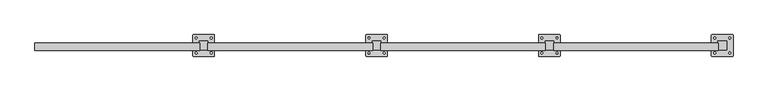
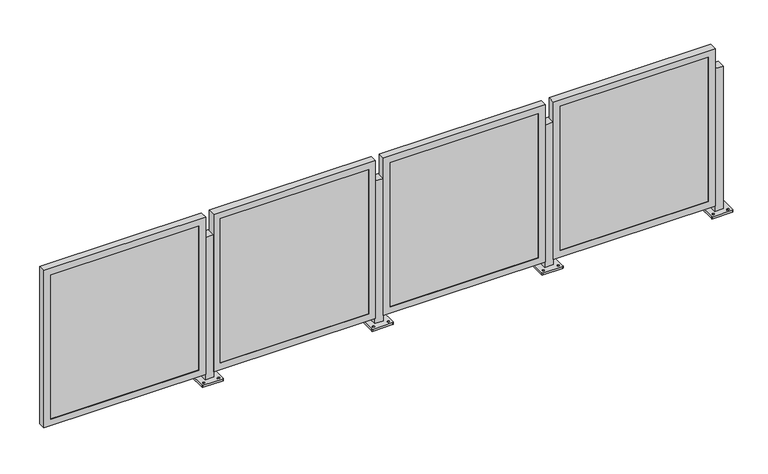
"""IFC4 building model written with IfcOpenShell, lengths in millimetres: railing geometry."""

from ifc_helpers import new_model, si_unit, frame, origin, place, context, project, spatial, polyline, circle_curve, outline, extrude, faceted_brep, source, transform, mapped, element, save
from ifc_brep_helpers import plane_surface, cylinder_surface, revolved_surface, advanced_brep


def railing_c7c183e7(model_context):
    return source(origin(), model_context, "Body", "SolidModel", [
        advanced_brep(
        [(-3164.7876539, 7781.5792637, 914.4), (-3164.7876539, 7730.7792637, 914.4), (-3113.9876539, 7730.7792637, 914.4), (-3113.9876539, 7781.5792637, 914.4), (-3202.887654, 7695.8543047, 0.0), (-3202.887654, 7816.5042227, 0.0), (-3199.7126259, 7819.6792508, 0.0), (-3079.0626819, 7819.6792508, 0.0), (-3075.8876537, 7816.5042227, 0.0), (-3075.8876537, 7695.8543047, 0.0), (-3079.0626819, 7692.6792766, 0.0), (-3199.7126259, 7692.6792766, 0.0), (-3183.8376414, 7706.173009, 0.0), (-3183.8376414, 7717.2855215, 0.0), (-3183.8376523, 7795.0730134, 0.0), (-3183.8376523, 7806.185495, 0.0), (-3094.9376404, 7706.1730106, 0.0), (-3094.9376404, 7717.2855212, 0.0), (-3094.9376514, 7795.073015, 0.0), (-3094.9376514, 7806.1854948, 0.0), (-3164.7876539, 7781.5792637, 12.7), (-3164.7876539, 7730.7792637, 12.7), (-3113.9876539, 7730.7792637, 12.7), (-3113.9876539, 7781.5792637, 12.7), (-3202.887654, 7695.8543047, 12.7), (-3199.7126259, 7692.6792766, 12.7), (-3079.0626819, 7692.6792766, 12.7), (-3075.8876537, 7695.8543047, 12.7), (-3075.8876537, 7816.5042227, 12.7), (-3079.0626819, 7819.6792508, 12.7), (-3199.7126259, 7819.6792508, 12.7), (-3202.887654, 7816.5042227, 12.7), (-3183.8376414, 7706.173009, 12.7), (-3183.8376414, 7717.2855215, 12.7), (-3183.8376523, 7795.0730134, 12.7), (-3183.8376523, 7806.185495, 12.7), (-3094.9376404, 7706.1730106, 12.7), (-3094.9376404, 7717.2855212, 12.7), (-3094.9376514, 7795.073015, 12.7), (-3094.9376514, 7806.1854948, 12.7)],
        [
            (0, 1),
            (1, 2),
            (2, 3),
            (3, 0),
            (4, 5),
            (5, 6, circle_curve(frame((-3199.7126259, 7816.5042227, 0.0), z_axis=(0.0, 0.0, -1.0), x_axis=(0.0, 1.0, 0.0)), 3.1750282)),
            (6, 7),
            (7, 8, circle_curve(frame((-3079.0626819, 7816.5042227, 0.0), z_axis=(0.0, 0.0, -1.0), x_axis=(0.0, 1.0, 0.0)), 3.1750282)),
            (8, 9),
            (9, 10, circle_curve(frame((-3079.0626819, 7695.8543047, 0.0), z_axis=(0.0, 0.0, -1.0), x_axis=(0.0, 1.0, 0.0)), 3.1750282)),
            (10, 11),
            (11, 4, circle_curve(frame((-3199.7126259, 7695.8543047, 0.0), z_axis=(0.0, 0.0, -1.0), x_axis=(0.0, 1.0, 0.0)), 3.1750282)),
            (12, 13, circle_curve(frame((-3183.8376414, 7711.7292653, 0.0), z_axis=(0.0, 0.0, 1.0), x_axis=(0.0, 1.0, 0.0)), 5.5562562)),
            (13, 12, circle_curve(frame((-3183.8376414, 7711.7292653, 0.0), z_axis=(0.0, 0.0, 1.0), x_axis=(0.0, 1.0, 0.0)), 5.5562562)),
            (14, 15, circle_curve(frame((-3183.8376523, 7800.6292542, 0.0), z_axis=(0.0, 0.0, 1.0), x_axis=(0.0, 1.0, 0.0)), 5.5562408)),
            (15, 14, circle_curve(frame((-3183.8376523, 7800.6292542, 0.0), z_axis=(0.0, 0.0, 1.0), x_axis=(0.0, 1.0, 0.0)), 5.5562408)),
            (16, 17, circle_curve(frame((-3094.9376404, 7711.7292659, 0.0), z_axis=(0.0, 0.0, 1.0), x_axis=(0.0, 1.0, 0.0)), 5.5562553)),
            (17, 16, circle_curve(frame((-3094.9376404, 7711.7292659, 0.0), z_axis=(0.0, 0.0, 1.0), x_axis=(0.0, 1.0, 0.0)), 5.5562553)),
            (18, 19, circle_curve(frame((-3094.9376514, 7800.6292549, 0.0), z_axis=(0.0, 0.0, 1.0), x_axis=(0.0, 1.0, 0.0)), 5.5562399)),
            (19, 18, circle_curve(frame((-3094.9376514, 7800.6292549, 0.0), z_axis=(0.0, 0.0, 1.0), x_axis=(0.0, 1.0, 0.0)), 5.5562399)),
            (0, 20),
            (20, 21),
            (21, 1),
            (21, 22),
            (22, 2),
            (22, 23),
            (23, 3),
            (23, 20),
            (24, 25, circle_curve(frame((-3199.7126259, 7695.8543047, 12.7), z_axis=(0.0, 0.0, 1.0), x_axis=(0.0, 1.0, 0.0)), 3.1750282)),
            (25, 26),
            (26, 27, circle_curve(frame((-3079.0626819, 7695.8543047, 12.7), z_axis=(0.0, 0.0, 1.0), x_axis=(0.0, 1.0, 0.0)), 3.1750282)),
            (27, 28),
            (28, 29, circle_curve(frame((-3079.0626819, 7816.5042227, 12.7), z_axis=(0.0, 0.0, 1.0), x_axis=(0.0, 1.0, 0.0)), 3.1750282)),
            (29, 30),
            (30, 31, circle_curve(frame((-3199.7126259, 7816.5042227, 12.7), z_axis=(0.0, 0.0, 1.0), x_axis=(0.0, 1.0, 0.0)), 3.1750282)),
            (31, 24),
            (32, 33, circle_curve(frame((-3183.8376414, 7711.7292653, 12.7), z_axis=(0.0, 0.0, -1.0), x_axis=(0.0, 1.0, 0.0)), 5.5562562)),
            (33, 32, circle_curve(frame((-3183.8376414, 7711.7292653, 12.7), z_axis=(0.0, 0.0, -1.0), x_axis=(0.0, 1.0, 0.0)), 5.5562562)),
            (34, 35, circle_curve(frame((-3183.8376523, 7800.6292542, 12.7), z_axis=(0.0, 0.0, -1.0), x_axis=(0.0, 1.0, 0.0)), 5.5562408)),
            (35, 34, circle_curve(frame((-3183.8376523, 7800.6292542, 12.7), z_axis=(0.0, 0.0, -1.0), x_axis=(0.0, 1.0, 0.0)), 5.5562408)),
            (36, 37, circle_curve(frame((-3094.9376404, 7711.7292659, 12.7), z_axis=(0.0, 0.0, -1.0), x_axis=(0.0, 1.0, 0.0)), 5.5562553)),
            (37, 36, circle_curve(frame((-3094.9376404, 7711.7292659, 12.7), z_axis=(0.0, 0.0, -1.0), x_axis=(0.0, 1.0, 0.0)), 5.5562553)),
            (38, 39, circle_curve(frame((-3094.9376514, 7800.6292549, 12.7), z_axis=(0.0, 0.0, -1.0), x_axis=(0.0, 1.0, 0.0)), 5.5562399)),
            (39, 38, circle_curve(frame((-3094.9376514, 7800.6292549, 12.7), z_axis=(0.0, 0.0, -1.0), x_axis=(0.0, 1.0, 0.0)), 5.5562399)),
            (24, 4),
            (11, 25),
            (10, 26),
            (9, 27),
            (8, 28),
            (7, 29),
            (6, 30),
            (5, 31),
            (32, 12),
            (13, 33),
            (34, 14),
            (15, 35),
            (36, 16),
            (17, 37),
            (38, 18),
            (19, 39),
        ],
        [
            plane_surface(frame((-3164.7876539, 7730.7792637, 914.4), z_axis=(0.0, 0.0, 1.0), x_axis=(0.0, -1.0, 0.0))),
            plane_surface(frame((-3164.7876539, 7730.7792637, 0.0), z_axis=(0.0, 0.0, -1.0), x_axis=(0.0, 1.0, 0.0))),
            plane_surface(frame((-3164.7876539, 7781.5792637, 914.4), z_axis=(-1.0, 0.0, 0.0), x_axis=(0.0, 0.0, -1.0))),
            plane_surface(frame((-3164.7876539, 7730.7792637, 914.4), z_axis=(0.0, -1.0, 0.0), x_axis=(0.0, 0.0, -1.0))),
            plane_surface(frame((-3113.9876539, 7730.7792637, 914.4), z_axis=(1.0, 0.0, 0.0), x_axis=(0.0, 0.0, -1.0))),
            plane_surface(frame((-3113.9876539, 7781.5792637, 914.4), z_axis=(0.0, 1.0, 0.0), x_axis=(0.0, 0.0, -1.0))),
            plane_surface(frame((-3199.7126259, 7699.0293329, 12.7), z_axis=(0.0, 0.0, 1.0), x_axis=(-1.0, 0.0, 0.0))),
            cylinder_surface(frame((-3199.7126259, 7695.8543047, 0.0), z_axis=(0.0, 0.0, 1.0), x_axis=(0.0, 1.0, 0.0)), 3.1750282),
            plane_surface(frame((-3199.7126259, 7692.6792766, 12.7), z_axis=(1.1945386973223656e-12, -1.0, 0.0), x_axis=(0.0, 0.0, -1.0))),
            cylinder_surface(frame((-3079.0626819, 7695.8543047, 0.0), z_axis=(0.0, 0.0, 1.0), x_axis=(0.0, 1.0, 0.0)), 3.1750282),
            plane_surface(frame((-3075.8876537, 7695.8543047, 12.7), z_axis=(1.0, 0.0, 0.0), x_axis=(0.0, 0.0, -1.0))),
            cylinder_surface(frame((-3079.0626819, 7816.5042227, 0.0), z_axis=(0.0, 0.0, 1.0), x_axis=(0.0, 1.0, 0.0)), 3.1750282),
            plane_surface(frame((-3079.0626819, 7819.6792508, 12.7), z_axis=(-1.1946088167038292e-12, 1.0, 0.0), x_axis=(0.0, 0.0, -1.0))),
            cylinder_surface(frame((-3199.7126259, 7816.5042227, 0.0), z_axis=(0.0, 0.0, 1.0), x_axis=(0.0, 1.0, 0.0)), 3.1750282),
            plane_surface(frame((-3202.887654, 7816.5042227, 12.7), z_axis=(-1.0, 0.0, 0.0), x_axis=(0.0, 0.0, -1.0))),
            revolved_surface(polyline([(-3183.8376414, 7717.2855215, 0.0), (-3183.8376414, 7717.2855215, 12.7)]), (-3183.8376414, 7711.7292653, 0.0), (0.0, 0.0, -1.0)),
            revolved_surface(polyline([(-3183.8376523, 7806.185495, 0.0), (-3183.8376523, 7806.185495, 12.7)]), (-3183.8376523, 7800.6292542, 0.0), (0.0, 0.0, -1.0)),
            revolved_surface(polyline([(-3094.9376404, 7717.2855212, 0.0), (-3094.9376404, 7717.2855212, 12.7)]), (-3094.9376404, 7711.7292659, 0.0), (0.0, 0.0, -1.0)),
            revolved_surface(polyline([(-3094.9376514, 7806.1854948, 0.0), (-3094.9376514, 7806.1854948, 12.7)]), (-3094.9376514, 7800.6292549, 0.0), (0.0, 0.0, -1.0)),
        ],
        [
            (0, [[1, 2, 3, 4]]),
            (1, [[5, 6, 7, 8, 9, 10, 11, 12], [13, 14], [15, 16], [17, 18], [19, 20]]),
            (2, [[-1, 21, 22, 23]]),
            (3, [[-2, -23, 24, 25]]),
            (4, [[-3, -25, 26, 27]]),
            (5, [[-4, -27, 28, -21]]),
            (6, [[29, 30, 31, 32, 33, 34, 35, 36], [-22, -28, -26, -24], [37, 38], [39, 40], [41, 42], [43, 44]]),
            (7, [[-29, 45, -12, 46]]),
            (8, [[-30, -46, -11, 47]]),
            (9, [[-31, -47, -10, 48]]),
            (10, [[-32, -48, -9, 49]]),
            (11, [[-33, -49, -8, 50]]),
            (12, [[-34, -50, -7, 51]]),
            (13, [[-35, -51, -6, 52]]),
            (14, [[-36, -52, -5, -45]]),
            (15, [[-37, 53, -14, 54]]),
            (15, [[-38, -54, -13, -53]]),
            (16, [[-39, 55, -16, 56]]),
            (16, [[-40, -56, -15, -55]]),
            (17, [[-41, 57, -18, 58]]),
            (17, [[-42, -58, -17, -57]]),
            (18, [[-43, 59, -20, 60]]),
            (18, [[-44, -60, -19, -59]]),
        ],
    ),
        faceted_brep([(-4131.1921073, 7728.0360637, 47.625), (-3162.8171073, 7728.0360637, 47.625), (-3162.8171073, 7728.0360637, 1044.575), (-4131.1921073, 7728.0360637, 1044.575), (-4089.9171073, 7728.0360637, 1003.3), (-3204.0921073, 7728.0360637, 1003.3), (-3204.0921073, 7728.0360637, 88.9), (-4089.9171073, 7728.0360637, 88.9), (-4089.9171073, 7730.7792637, 1003.3), (-4089.9171073, 7730.7792637, 88.9), (-4131.1921073, 7771.9093602, 1044.575), (-4131.1921073, 7771.9093602, 47.625), (-4128.0171073, 7771.9093602, 1041.4), (-4128.0171073, 7730.7792637, 1041.4), (-4128.0171073, 7730.7792637, 50.8), (-4128.0171073, 7771.9093602, 50.8), (-3204.0921073, 7730.7792637, 88.9), (-3162.8171073, 7771.9093602, 47.625), (-3165.9921073, 7730.7792637, 50.8), (-3165.9921073, 7771.9093602, 50.8), (-3204.0921073, 7730.7792637, 1003.3), (-3162.8171073, 7771.9093602, 1044.575), (-3165.9921073, 7730.7792637, 1041.4), (-3165.9921073, 7771.9093602, 1041.4)], [[[0, 1, 2, 3], [4, 5, 6, 7]], [[8, 4, 7, 9]], [[3, 10, 11, 0]], [[12, 13, 14, 15]], [[9, 7, 6, 16]], [[0, 11, 17, 1]], [[15, 14, 18, 19]], [[16, 6, 5, 20]], [[1, 17, 21, 2]], [[19, 18, 22, 23]], [[20, 5, 4, 8]], [[10, 21, 17, 11], [15, 19, 23, 12]], [[2, 21, 10, 3]], [[13, 22, 18, 14], [9, 16, 20, 8]], [[23, 22, 13, 12]]]),
        extrude(outline(polyline([(-4128.0171073, 7740.3042637), (-3165.9921073, 7740.3042637), (-3165.9921073, 7730.7792637), (-4128.0171073, 7730.7792637), (-4128.0171073, 7740.3042637)])), frame((0.0, 0.0, 50.8), z_axis=(0.0, 0.0, 1.0), x_axis=(1.0, 0.0, 0.0)), (0.0, 0.0, 1.0), 990.6),
        advanced_brep(
        [(-4180.7876539, 7781.5792637, 914.4), (-4180.7876539, 7730.7792637, 914.4), (-4129.9876539, 7730.7792637, 914.4), (-4129.9876539, 7781.5792637, 914.4), (-4218.887654, 7695.8543047, 0.0), (-4218.887654, 7816.5042227, 0.0), (-4215.7126259, 7819.6792508, 0.0), (-4095.0626819, 7819.6792508, 0.0), (-4091.8876537, 7816.5042227, 0.0), (-4091.8876537, 7695.8543047, 0.0), (-4095.0626819, 7692.6792766, 0.0), (-4215.7126259, 7692.6792766, 0.0), (-4199.8376414, 7706.173009, 0.0), (-4199.8376414, 7717.2855215, 0.0), (-4199.8376523, 7795.0730134, 0.0), (-4199.8376523, 7806.185495, 0.0), (-4110.9376404, 7706.1730106, 0.0), (-4110.9376404, 7717.2855212, 0.0), (-4110.9376514, 7795.073015, 0.0), (-4110.9376514, 7806.1854948, 0.0), (-4180.7876539, 7781.5792637, 12.7), (-4180.7876539, 7730.7792637, 12.7), (-4129.9876539, 7730.7792637, 12.7), (-4129.9876539, 7781.5792637, 12.7), (-4218.887654, 7695.8543047, 12.7), (-4215.7126259, 7692.6792766, 12.7), (-4095.0626819, 7692.6792766, 12.7), (-4091.8876537, 7695.8543047, 12.7), (-4091.8876537, 7816.5042227, 12.7), (-4095.0626819, 7819.6792508, 12.7), (-4215.7126259, 7819.6792508, 12.7), (-4218.887654, 7816.5042227, 12.7), (-4199.8376414, 7706.173009, 12.7), (-4199.8376414, 7717.2855215, 12.7), (-4199.8376523, 7795.0730134, 12.7), (-4199.8376523, 7806.185495, 12.7), (-4110.9376404, 7706.1730106, 12.7), (-4110.9376404, 7717.2855212, 12.7), (-4110.9376514, 7795.073015, 12.7), (-4110.9376514, 7806.1854948, 12.7)],
        [
            (0, 1),
            (1, 2),
            (2, 3),
            (3, 0),
            (4, 5),
            (5, 6, circle_curve(frame((-4215.7126259, 7816.5042227, 0.0), z_axis=(0.0, 0.0, -1.0), x_axis=(0.0, 1.0, 0.0)), 3.1750282)),
            (6, 7),
            (7, 8, circle_curve(frame((-4095.0626819, 7816.5042227, 0.0), z_axis=(0.0, 0.0, -1.0), x_axis=(0.0, 1.0, 0.0)), 3.1750282)),
            (8, 9),
            (9, 10, circle_curve(frame((-4095.0626819, 7695.8543047, 0.0), z_axis=(0.0, 0.0, -1.0), x_axis=(0.0, 1.0, 0.0)), 3.1750282)),
            (10, 11),
            (11, 4, circle_curve(frame((-4215.7126259, 7695.8543047, 0.0), z_axis=(0.0, 0.0, -1.0), x_axis=(0.0, 1.0, 0.0)), 3.1750282)),
            (12, 13, circle_curve(frame((-4199.8376414, 7711.7292653, 0.0), z_axis=(0.0, 0.0, 1.0), x_axis=(0.0, 1.0, 0.0)), 5.5562562)),
            (13, 12, circle_curve(frame((-4199.8376414, 7711.7292653, 0.0), z_axis=(0.0, 0.0, 1.0), x_axis=(0.0, 1.0, 0.0)), 5.5562562)),
            (14, 15, circle_curve(frame((-4199.8376523, 7800.6292542, 0.0), z_axis=(0.0, 0.0, 1.0), x_axis=(0.0, 1.0, 0.0)), 5.5562408)),
            (15, 14, circle_curve(frame((-4199.8376523, 7800.6292542, 0.0), z_axis=(0.0, 0.0, 1.0), x_axis=(0.0, 1.0, 0.0)), 5.5562408)),
            (16, 17, circle_curve(frame((-4110.9376404, 7711.7292659, 0.0), z_axis=(0.0, 0.0, 1.0), x_axis=(0.0, 1.0, 0.0)), 5.5562553)),
            (17, 16, circle_curve(frame((-4110.9376404, 7711.7292659, 0.0), z_axis=(0.0, 0.0, 1.0), x_axis=(0.0, 1.0, 0.0)), 5.5562553)),
            (18, 19, circle_curve(frame((-4110.9376514, 7800.6292549, 0.0), z_axis=(0.0, 0.0, 1.0), x_axis=(0.0, 1.0, 0.0)), 5.5562399)),
            (19, 18, circle_curve(frame((-4110.9376514, 7800.6292549, 0.0), z_axis=(0.0, 0.0, 1.0), x_axis=(0.0, 1.0, 0.0)), 5.5562399)),
            (0, 20),
            (20, 21),
            (21, 1),
            (21, 22),
            (22, 2),
            (22, 23),
            (23, 3),
            (23, 20),
            (24, 25, circle_curve(frame((-4215.7126259, 7695.8543047, 12.7), z_axis=(0.0, 0.0, 1.0), x_axis=(0.0, 1.0, 0.0)), 3.1750282)),
            (25, 26),
            (26, 27, circle_curve(frame((-4095.0626819, 7695.8543047, 12.7), z_axis=(0.0, 0.0, 1.0), x_axis=(0.0, 1.0, 0.0)), 3.1750282)),
            (27, 28),
            (28, 29, circle_curve(frame((-4095.0626819, 7816.5042227, 12.7), z_axis=(0.0, 0.0, 1.0), x_axis=(0.0, 1.0, 0.0)), 3.1750282)),
            (29, 30),
            (30, 31, circle_curve(frame((-4215.7126259, 7816.5042227, 12.7), z_axis=(0.0, 0.0, 1.0), x_axis=(0.0, 1.0, 0.0)), 3.1750282)),
            (31, 24),
            (32, 33, circle_curve(frame((-4199.8376414, 7711.7292653, 12.7), z_axis=(0.0, 0.0, -1.0), x_axis=(0.0, 1.0, 0.0)), 5.5562562)),
            (33, 32, circle_curve(frame((-4199.8376414, 7711.7292653, 12.7), z_axis=(0.0, 0.0, -1.0), x_axis=(0.0, 1.0, 0.0)), 5.5562562)),
            (34, 35, circle_curve(frame((-4199.8376523, 7800.6292542, 12.7), z_axis=(0.0, 0.0, -1.0), x_axis=(0.0, 1.0, 0.0)), 5.5562408)),
            (35, 34, circle_curve(frame((-4199.8376523, 7800.6292542, 12.7), z_axis=(0.0, 0.0, -1.0), x_axis=(0.0, 1.0, 0.0)), 5.5562408)),
            (36, 37, circle_curve(frame((-4110.9376404, 7711.7292659, 12.7), z_axis=(0.0, 0.0, -1.0), x_axis=(0.0, 1.0, 0.0)), 5.5562553)),
            (37, 36, circle_curve(frame((-4110.9376404, 7711.7292659, 12.7), z_axis=(0.0, 0.0, -1.0), x_axis=(0.0, 1.0, 0.0)), 5.5562553)),
            (38, 39, circle_curve(frame((-4110.9376514, 7800.6292549, 12.7), z_axis=(0.0, 0.0, -1.0), x_axis=(0.0, 1.0, 0.0)), 5.5562399)),
            (39, 38, circle_curve(frame((-4110.9376514, 7800.6292549, 12.7), z_axis=(0.0, 0.0, -1.0), x_axis=(0.0, 1.0, 0.0)), 5.5562399)),
            (24, 4),
            (11, 25),
            (10, 26),
            (9, 27),
            (8, 28),
            (7, 29),
            (6, 30),
            (5, 31),
            (32, 12),
            (13, 33),
            (34, 14),
            (15, 35),
            (36, 16),
            (17, 37),
            (38, 18),
            (19, 39),
        ],
        [
            plane_surface(frame((-4180.7876539, 7730.7792637, 914.4), z_axis=(0.0, 0.0, 1.0), x_axis=(0.0, -1.0, 0.0))),
            plane_surface(frame((-4180.7876539, 7730.7792637, 0.0), z_axis=(0.0, 0.0, -1.0), x_axis=(0.0, 1.0, 0.0))),
            plane_surface(frame((-4180.7876539, 7781.5792637, 914.4), z_axis=(-1.0, 0.0, 0.0), x_axis=(0.0, 0.0, -1.0))),
            plane_surface(frame((-4180.7876539, 7730.7792637, 914.4), z_axis=(0.0, -1.0, 0.0), x_axis=(0.0, 0.0, -1.0))),
            plane_surface(frame((-4129.9876539, 7730.7792637, 914.4), z_axis=(1.0, 0.0, 0.0), x_axis=(0.0, 0.0, -1.0))),
            plane_surface(frame((-4129.9876539, 7781.5792637, 914.4), z_axis=(0.0, 1.0, 0.0), x_axis=(0.0, 0.0, -1.0))),
            plane_surface(frame((-4215.7126259, 7699.0293329, 12.7), z_axis=(0.0, 0.0, 1.0), x_axis=(-1.0, 0.0, 0.0))),
            cylinder_surface(frame((-4215.7126259, 7695.8543047, 0.0), z_axis=(0.0, 0.0, 1.0), x_axis=(0.0, 1.0, 0.0)), 3.1750282),
            plane_surface(frame((-4215.7126259, 7692.6792766, 12.7), z_axis=(1.1945386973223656e-12, -1.0, 0.0), x_axis=(0.0, 0.0, -1.0))),
            cylinder_surface(frame((-4095.0626819, 7695.8543047, 0.0), z_axis=(0.0, 0.0, 1.0), x_axis=(0.0, 1.0, 0.0)), 3.1750282),
            plane_surface(frame((-4091.8876537, 7695.8543047, 12.7), z_axis=(1.0, 0.0, 0.0), x_axis=(0.0, 0.0, -1.0))),
            cylinder_surface(frame((-4095.0626819, 7816.5042227, 0.0), z_axis=(0.0, 0.0, 1.0), x_axis=(0.0, 1.0, 0.0)), 3.1750282),
            plane_surface(frame((-4095.0626819, 7819.6792508, 12.7), z_axis=(-1.1946088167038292e-12, 1.0, 0.0), x_axis=(0.0, 0.0, -1.0))),
            cylinder_surface(frame((-4215.7126259, 7816.5042227, 0.0), z_axis=(0.0, 0.0, 1.0), x_axis=(0.0, 1.0, 0.0)), 3.1750282),
            plane_surface(frame((-4218.887654, 7816.5042227, 12.7), z_axis=(-1.0, 0.0, 0.0), x_axis=(0.0, 0.0, -1.0))),
            revolved_surface(polyline([(-4199.8376414, 7717.2855215, 0.0), (-4199.8376414, 7717.2855215, 12.7)]), (-4199.8376414, 7711.7292653, 0.0), (0.0, 0.0, -1.0)),
            revolved_surface(polyline([(-4199.8376523, 7806.185495, 0.0), (-4199.8376523, 7806.185495, 12.7)]), (-4199.8376523, 7800.6292542, 0.0), (0.0, 0.0, -1.0)),
            revolved_surface(polyline([(-4110.9376404, 7717.2855212, 0.0), (-4110.9376404, 7717.2855212, 12.7)]), (-4110.9376404, 7711.7292659, 0.0), (0.0, 0.0, -1.0)),
            revolved_surface(polyline([(-4110.9376514, 7806.1854948, 0.0), (-4110.9376514, 7806.1854948, 12.7)]), (-4110.9376514, 7800.6292549, 0.0), (0.0, 0.0, -1.0)),
        ],
        [
            (0, [[1, 2, 3, 4]]),
            (1, [[5, 6, 7, 8, 9, 10, 11, 12], [13, 14], [15, 16], [17, 18], [19, 20]]),
            (2, [[-1, 21, 22, 23]]),
            (3, [[-2, -23, 24, 25]]),
            (4, [[-3, -25, 26, 27]]),
            (5, [[-4, -27, 28, -21]]),
            (6, [[29, 30, 31, 32, 33, 34, 35, 36], [-22, -28, -26, -24], [37, 38], [39, 40], [41, 42], [43, 44]]),
            (7, [[-29, 45, -12, 46]]),
            (8, [[-30, -46, -11, 47]]),
            (9, [[-31, -47, -10, 48]]),
            (10, [[-32, -48, -9, 49]]),
            (11, [[-33, -49, -8, 50]]),
            (12, [[-34, -50, -7, 51]]),
            (13, [[-35, -51, -6, 52]]),
            (14, [[-36, -52, -5, -45]]),
            (15, [[-37, 53, -14, 54]]),
            (15, [[-38, -54, -13, -53]]),
            (16, [[-39, 55, -16, 56]]),
            (16, [[-40, -56, -15, -55]]),
            (17, [[-41, 57, -18, 58]]),
            (17, [[-42, -58, -17, -57]]),
            (18, [[-43, 59, -20, 60]]),
            (18, [[-44, -60, -19, -59]]),
        ],
    ),
        faceted_brep([(-5147.1921073, 7728.0360637, 47.625), (-4178.8171073, 7728.0360637, 47.625), (-4178.8171073, 7728.0360637, 1044.575), (-5147.1921073, 7728.0360637, 1044.575), (-5105.9171073, 7728.0360637, 1003.3), (-4220.0921073, 7728.0360637, 1003.3), (-4220.0921073, 7728.0360637, 88.9), (-5105.9171073, 7728.0360637, 88.9), (-5105.9171073, 7730.7792637, 1003.3), (-5105.9171073, 7730.7792637, 88.9), (-5147.1921073, 7771.9093602, 1044.575), (-5147.1921073, 7771.9093602, 47.625), (-5144.0171073, 7771.9093602, 1041.4), (-5144.0171073, 7730.7792637, 1041.4), (-5144.0171073, 7730.7792637, 50.8), (-5144.0171073, 7771.9093602, 50.8), (-4220.0921073, 7730.7792637, 88.9), (-4178.8171073, 7771.9093602, 47.625), (-4181.9921073, 7730.7792637, 50.8), (-4181.9921073, 7771.9093602, 50.8), (-4220.0921073, 7730.7792637, 1003.3), (-4178.8171073, 7771.9093602, 1044.575), (-4181.9921073, 7730.7792637, 1041.4), (-4181.9921073, 7771.9093602, 1041.4)], [[[0, 1, 2, 3], [4, 5, 6, 7]], [[8, 4, 7, 9]], [[3, 10, 11, 0]], [[12, 13, 14, 15]], [[9, 7, 6, 16]], [[0, 11, 17, 1]], [[15, 14, 18, 19]], [[16, 6, 5, 20]], [[1, 17, 21, 2]], [[19, 18, 22, 23]], [[20, 5, 4, 8]], [[10, 21, 17, 11], [15, 19, 23, 12]], [[2, 21, 10, 3]], [[13, 22, 18, 14], [9, 16, 20, 8]], [[23, 22, 13, 12]]]),
        extrude(outline(polyline([(-5144.0171073, 7740.3042637), (-4181.9921073, 7740.3042637), (-4181.9921073, 7730.7792637), (-5144.0171073, 7730.7792637), (-5144.0171073, 7740.3042637)])), frame((0.0, 0.0, 50.8), z_axis=(0.0, 0.0, 1.0), x_axis=(1.0, 0.0, 0.0)), (0.0, 0.0, 1.0), 990.6),
        advanced_brep(
        [(-5196.7876539, 7781.5792637, 914.4), (-5196.7876539, 7730.7792637, 914.4), (-5145.9876539, 7730.7792637, 914.4), (-5145.9876539, 7781.5792637, 914.4), (-5234.887654, 7695.8543047, 0.0), (-5234.887654, 7816.5042227, 0.0), (-5231.7126259, 7819.6792508, 0.0), (-5111.0626819, 7819.6792508, 0.0), (-5107.8876537, 7816.5042227, 0.0), (-5107.8876537, 7695.8543047, 0.0), (-5111.0626819, 7692.6792766, 0.0), (-5231.7126259, 7692.6792766, 0.0), (-5215.8376414, 7706.173009, 0.0), (-5215.8376414, 7717.2855215, 0.0), (-5215.8376523, 7795.0730134, 0.0), (-5215.8376523, 7806.185495, 0.0), (-5126.9376404, 7706.1730106, 0.0), (-5126.9376404, 7717.2855212, 0.0), (-5126.9376514, 7795.073015, 0.0), (-5126.9376514, 7806.1854948, 0.0), (-5196.7876539, 7781.5792637, 12.7), (-5196.7876539, 7730.7792637, 12.7), (-5145.9876539, 7730.7792637, 12.7), (-5145.9876539, 7781.5792637, 12.7), (-5234.887654, 7695.8543047, 12.7), (-5231.7126259, 7692.6792766, 12.7), (-5111.0626819, 7692.6792766, 12.7), (-5107.8876537, 7695.8543047, 12.7), (-5107.8876537, 7816.5042227, 12.7), (-5111.0626819, 7819.6792508, 12.7), (-5231.7126259, 7819.6792508, 12.7), (-5234.887654, 7816.5042227, 12.7), (-5215.8376414, 7706.173009, 12.7), (-5215.8376414, 7717.2855215, 12.7), (-5215.8376523, 7795.0730134, 12.7), (-5215.8376523, 7806.185495, 12.7), (-5126.9376404, 7706.1730106, 12.7), (-5126.9376404, 7717.2855212, 12.7), (-5126.9376514, 7795.073015, 12.7), (-5126.9376514, 7806.1854948, 12.7)],
        [
            (0, 1),
            (1, 2),
            (2, 3),
            (3, 0),
            (4, 5),
            (5, 6, circle_curve(frame((-5231.7126259, 7816.5042227, 0.0), z_axis=(0.0, 0.0, -1.0), x_axis=(0.0, 1.0, 0.0)), 3.1750282)),
            (6, 7),
            (7, 8, circle_curve(frame((-5111.0626819, 7816.5042227, 0.0), z_axis=(0.0, 0.0, -1.0), x_axis=(0.0, 1.0, 0.0)), 3.1750282)),
            (8, 9),
            (9, 10, circle_curve(frame((-5111.0626819, 7695.8543047, 0.0), z_axis=(0.0, 0.0, -1.0), x_axis=(0.0, 1.0, 0.0)), 3.1750282)),
            (10, 11),
            (11, 4, circle_curve(frame((-5231.7126259, 7695.8543047, 0.0), z_axis=(0.0, 0.0, -1.0), x_axis=(0.0, 1.0, 0.0)), 3.1750282)),
            (12, 13, circle_curve(frame((-5215.8376414, 7711.7292653, 0.0), z_axis=(0.0, 0.0, 1.0), x_axis=(0.0, 1.0, 0.0)), 5.5562562)),
            (13, 12, circle_curve(frame((-5215.8376414, 7711.7292653, 0.0), z_axis=(0.0, 0.0, 1.0), x_axis=(0.0, 1.0, 0.0)), 5.5562562)),
            (14, 15, circle_curve(frame((-5215.8376523, 7800.6292542, 0.0), z_axis=(0.0, 0.0, 1.0), x_axis=(0.0, 1.0, 0.0)), 5.5562408)),
            (15, 14, circle_curve(frame((-5215.8376523, 7800.6292542, 0.0), z_axis=(0.0, 0.0, 1.0), x_axis=(0.0, 1.0, 0.0)), 5.5562408)),
            (16, 17, circle_curve(frame((-5126.9376404, 7711.7292659, 0.0), z_axis=(0.0, 0.0, 1.0), x_axis=(0.0, 1.0, 0.0)), 5.5562553)),
            (17, 16, circle_curve(frame((-5126.9376404, 7711.7292659, 0.0), z_axis=(0.0, 0.0, 1.0), x_axis=(0.0, 1.0, 0.0)), 5.5562553)),
            (18, 19, circle_curve(frame((-5126.9376514, 7800.6292549, 0.0), z_axis=(0.0, 0.0, 1.0), x_axis=(0.0, 1.0, 0.0)), 5.5562399)),
            (19, 18, circle_curve(frame((-5126.9376514, 7800.6292549, 0.0), z_axis=(0.0, 0.0, 1.0), x_axis=(0.0, 1.0, 0.0)), 5.5562399)),
            (0, 20),
            (20, 21),
            (21, 1),
            (21, 22),
            (22, 2),
            (22, 23),
            (23, 3),
            (23, 20),
            (24, 25, circle_curve(frame((-5231.7126259, 7695.8543047, 12.7), z_axis=(0.0, 0.0, 1.0), x_axis=(0.0, 1.0, 0.0)), 3.1750282)),
            (25, 26),
            (26, 27, circle_curve(frame((-5111.0626819, 7695.8543047, 12.7), z_axis=(0.0, 0.0, 1.0), x_axis=(0.0, 1.0, 0.0)), 3.1750282)),
            (27, 28),
            (28, 29, circle_curve(frame((-5111.0626819, 7816.5042227, 12.7), z_axis=(0.0, 0.0, 1.0), x_axis=(0.0, 1.0, 0.0)), 3.1750282)),
            (29, 30),
            (30, 31, circle_curve(frame((-5231.7126259, 7816.5042227, 12.7), z_axis=(0.0, 0.0, 1.0), x_axis=(0.0, 1.0, 0.0)), 3.1750282)),
            (31, 24),
            (32, 33, circle_curve(frame((-5215.8376414, 7711.7292653, 12.7), z_axis=(0.0, 0.0, -1.0), x_axis=(0.0, 1.0, 0.0)), 5.5562562)),
            (33, 32, circle_curve(frame((-5215.8376414, 7711.7292653, 12.7), z_axis=(0.0, 0.0, -1.0), x_axis=(0.0, 1.0, 0.0)), 5.5562562)),
            (34, 35, circle_curve(frame((-5215.8376523, 7800.6292542, 12.7), z_axis=(0.0, 0.0, -1.0), x_axis=(0.0, 1.0, 0.0)), 5.5562408)),
            (35, 34, circle_curve(frame((-5215.8376523, 7800.6292542, 12.7), z_axis=(0.0, 0.0, -1.0), x_axis=(0.0, 1.0, 0.0)), 5.5562408)),
            (36, 37, circle_curve(frame((-5126.9376404, 7711.7292659, 12.7), z_axis=(0.0, 0.0, -1.0), x_axis=(0.0, 1.0, 0.0)), 5.5562553)),
            (37, 36, circle_curve(frame((-5126.9376404, 7711.7292659, 12.7), z_axis=(0.0, 0.0, -1.0), x_axis=(0.0, 1.0, 0.0)), 5.5562553)),
            (38, 39, circle_curve(frame((-5126.9376514, 7800.6292549, 12.7), z_axis=(0.0, 0.0, -1.0), x_axis=(0.0, 1.0, 0.0)), 5.5562399)),
            (39, 38, circle_curve(frame((-5126.9376514, 7800.6292549, 12.7), z_axis=(0.0, 0.0, -1.0), x_axis=(0.0, 1.0, 0.0)), 5.5562399)),
            (24, 4),
            (11, 25),
            (10, 26),
            (9, 27),
            (8, 28),
            (7, 29),
            (6, 30),
            (5, 31),
            (32, 12),
            (13, 33),
            (34, 14),
            (15, 35),
            (36, 16),
            (17, 37),
            (38, 18),
            (19, 39),
        ],
        [
            plane_surface(frame((-5196.7876539, 7730.7792637, 914.4), z_axis=(0.0, 0.0, 1.0), x_axis=(0.0, -1.0, 0.0))),
            plane_surface(frame((-5196.7876539, 7730.7792637, 0.0), z_axis=(0.0, 0.0, -1.0), x_axis=(0.0, 1.0, 0.0))),
            plane_surface(frame((-5196.7876539, 7781.5792637, 914.4), z_axis=(-1.0, 0.0, 0.0), x_axis=(0.0, 0.0, -1.0))),
            plane_surface(frame((-5196.7876539, 7730.7792637, 914.4), z_axis=(0.0, -1.0, 0.0), x_axis=(0.0, 0.0, -1.0))),
            plane_surface(frame((-5145.9876539, 7730.7792637, 914.4), z_axis=(1.0, 0.0, 0.0), x_axis=(0.0, 0.0, -1.0))),
            plane_surface(frame((-5145.9876539, 7781.5792637, 914.4), z_axis=(0.0, 1.0, 0.0), x_axis=(0.0, 0.0, -1.0))),
            plane_surface(frame((-5231.7126259, 7699.0293329, 12.7), z_axis=(0.0, 0.0, 1.0), x_axis=(-1.0, 0.0, 0.0))),
            cylinder_surface(frame((-5231.7126259, 7695.8543047, 0.0), z_axis=(0.0, 0.0, 1.0), x_axis=(0.0, 1.0, 0.0)), 3.1750282),
            plane_surface(frame((-5231.7126259, 7692.6792766, 12.7), z_axis=(1.1945386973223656e-12, -1.0, 0.0), x_axis=(0.0, 0.0, -1.0))),
            cylinder_surface(frame((-5111.0626819, 7695.8543047, 0.0), z_axis=(0.0, 0.0, 1.0), x_axis=(0.0, 1.0, 0.0)), 3.1750282),
            plane_surface(frame((-5107.8876537, 7695.8543047, 12.7), z_axis=(1.0, 0.0, 0.0), x_axis=(0.0, 0.0, -1.0))),
            cylinder_surface(frame((-5111.0626819, 7816.5042227, 0.0), z_axis=(0.0, 0.0, 1.0), x_axis=(0.0, 1.0, 0.0)), 3.1750282),
            plane_surface(frame((-5111.0626819, 7819.6792508, 12.7), z_axis=(-1.1946088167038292e-12, 1.0, 0.0), x_axis=(0.0, 0.0, -1.0))),
            cylinder_surface(frame((-5231.7126259, 7816.5042227, 0.0), z_axis=(0.0, 0.0, 1.0), x_axis=(0.0, 1.0, 0.0)), 3.1750282),
            plane_surface(frame((-5234.887654, 7816.5042227, 12.7), z_axis=(-1.0, 0.0, 0.0), x_axis=(0.0, 0.0, -1.0))),
            revolved_surface(polyline([(-5215.8376414, 7717.2855215, 0.0), (-5215.8376414, 7717.2855215, 12.7)]), (-5215.8376414, 7711.7292653, 0.0), (0.0, 0.0, -1.0)),
            revolved_surface(polyline([(-5215.8376523, 7806.185495, 0.0), (-5215.8376523, 7806.185495, 12.7)]), (-5215.8376523, 7800.6292542, 0.0), (0.0, 0.0, -1.0)),
            revolved_surface(polyline([(-5126.9376404, 7717.2855212, 0.0), (-5126.9376404, 7717.2855212, 12.7)]), (-5126.9376404, 7711.7292659, 0.0), (0.0, 0.0, -1.0)),
            revolved_surface(polyline([(-5126.9376514, 7806.1854948, 0.0), (-5126.9376514, 7806.1854948, 12.7)]), (-5126.9376514, 7800.6292549, 0.0), (0.0, 0.0, -1.0)),
        ],
        [
            (0, [[1, 2, 3, 4]]),
            (1, [[5, 6, 7, 8, 9, 10, 11, 12], [13, 14], [15, 16], [17, 18], [19, 20]]),
            (2, [[-1, 21, 22, 23]]),
            (3, [[-2, -23, 24, 25]]),
            (4, [[-3, -25, 26, 27]]),
            (5, [[-4, -27, 28, -21]]),
            (6, [[29, 30, 31, 32, 33, 34, 35, 36], [-22, -28, -26, -24], [37, 38], [39, 40], [41, 42], [43, 44]]),
            (7, [[-29, 45, -12, 46]]),
            (8, [[-30, -46, -11, 47]]),
            (9, [[-31, -47, -10, 48]]),
            (10, [[-32, -48, -9, 49]]),
            (11, [[-33, -49, -8, 50]]),
            (12, [[-34, -50, -7, 51]]),
            (13, [[-35, -51, -6, 52]]),
            (14, [[-36, -52, -5, -45]]),
            (15, [[-37, 53, -14, 54]]),
            (15, [[-38, -54, -13, -53]]),
            (16, [[-39, 55, -16, 56]]),
            (16, [[-40, -56, -15, -55]]),
            (17, [[-41, 57, -18, 58]]),
            (17, [[-42, -58, -17, -57]]),
            (18, [[-43, 59, -20, 60]]),
            (18, [[-44, -60, -19, -59]]),
        ],
    ),
        faceted_brep([(-6163.1921073, 7728.0360637, 47.625), (-5194.8171073, 7728.0360637, 47.625), (-5194.8171073, 7728.0360637, 1044.575), (-6163.1921073, 7728.0360637, 1044.575), (-6121.9171073, 7728.0360637, 1003.3), (-5236.0921073, 7728.0360637, 1003.3), (-5236.0921073, 7728.0360637, 88.9), (-6121.9171073, 7728.0360637, 88.9), (-6121.9171073, 7730.7792637, 1003.3), (-6121.9171073, 7730.7792637, 88.9), (-6163.1921073, 7771.9093602, 1044.575), (-6163.1921073, 7771.9093602, 47.625), (-6160.0171073, 7771.9093602, 1041.4), (-6160.0171073, 7730.7792637, 1041.4), (-6160.0171073, 7730.7792637, 50.8), (-6160.0171073, 7771.9093602, 50.8), (-5236.0921073, 7730.7792637, 88.9), (-5194.8171073, 7771.9093602, 47.625), (-5197.9921073, 7730.7792637, 50.8), (-5197.9921073, 7771.9093602, 50.8), (-5236.0921073, 7730.7792637, 1003.3), (-5194.8171073, 7771.9093602, 1044.575), (-5197.9921073, 7730.7792637, 1041.4), (-5197.9921073, 7771.9093602, 1041.4)], [[[0, 1, 2, 3], [4, 5, 6, 7]], [[8, 4, 7, 9]], [[3, 10, 11, 0]], [[12, 13, 14, 15]], [[9, 7, 6, 16]], [[0, 11, 17, 1]], [[15, 14, 18, 19]], [[16, 6, 5, 20]], [[1, 17, 21, 2]], [[19, 18, 22, 23]], [[20, 5, 4, 8]], [[10, 21, 17, 11], [15, 19, 23, 12]], [[2, 21, 10, 3]], [[13, 22, 18, 14], [9, 16, 20, 8]], [[23, 22, 13, 12]]]),
        extrude(outline(polyline([(-6160.0171073, 7740.3042637), (-5197.9921073, 7740.3042637), (-5197.9921073, 7730.7792637), (-6160.0171073, 7730.7792637), (-6160.0171073, 7740.3042637)])), frame((0.0, 0.0, 50.8), z_axis=(0.0, 0.0, 1.0), x_axis=(1.0, 0.0, 0.0)), (0.0, 0.0, 1.0), 990.6),
        advanced_brep(
        [(-6212.7876539, 7781.5792637, 914.4), (-6212.7876539, 7730.7792637, 914.4), (-6161.9876539, 7730.7792637, 914.4), (-6161.9876539, 7781.5792637, 914.4), (-6250.887654, 7695.8543047, 0.0), (-6250.887654, 7816.5042227, 0.0), (-6247.7126259, 7819.6792508, 0.0), (-6127.0626819, 7819.6792508, 0.0), (-6123.8876537, 7816.5042227, 0.0), (-6123.8876537, 7695.8543047, 0.0), (-6127.0626819, 7692.6792766, 0.0), (-6247.7126259, 7692.6792766, 0.0), (-6231.8376414, 7706.173009, 0.0), (-6231.8376414, 7717.2855215, 0.0), (-6231.8376523, 7795.0730134, 0.0), (-6231.8376523, 7806.185495, 0.0), (-6142.9376404, 7706.1730106, 0.0), (-6142.9376404, 7717.2855212, 0.0), (-6142.9376514, 7795.073015, 0.0), (-6142.9376514, 7806.1854948, 0.0), (-6212.7876539, 7781.5792637, 12.7), (-6212.7876539, 7730.7792637, 12.7), (-6161.9876539, 7730.7792637, 12.7), (-6161.9876539, 7781.5792637, 12.7), (-6250.887654, 7695.8543047, 12.7), (-6247.7126259, 7692.6792766, 12.7), (-6127.0626819, 7692.6792766, 12.7), (-6123.8876537, 7695.8543047, 12.7), (-6123.8876537, 7816.5042227, 12.7), (-6127.0626819, 7819.6792508, 12.7), (-6247.7126259, 7819.6792508, 12.7), (-6250.887654, 7816.5042227, 12.7), (-6231.8376414, 7706.173009, 12.7), (-6231.8376414, 7717.2855215, 12.7), (-6231.8376523, 7795.0730134, 12.7), (-6231.8376523, 7806.185495, 12.7), (-6142.9376404, 7706.1730106, 12.7), (-6142.9376404, 7717.2855212, 12.7), (-6142.9376514, 7795.073015, 12.7), (-6142.9376514, 7806.1854948, 12.7)],
        [
            (0, 1),
            (1, 2),
            (2, 3),
            (3, 0),
            (4, 5),
            (5, 6, circle_curve(frame((-6247.7126259, 7816.5042227, 0.0), z_axis=(0.0, 0.0, -1.0), x_axis=(0.0, 1.0, 0.0)), 3.1750282)),
            (6, 7),
            (7, 8, circle_curve(frame((-6127.0626819, 7816.5042227, 0.0), z_axis=(0.0, 0.0, -1.0), x_axis=(0.0, 1.0, 0.0)), 3.1750282)),
            (8, 9),
            (9, 10, circle_curve(frame((-6127.0626819, 7695.8543047, 0.0), z_axis=(0.0, 0.0, -1.0), x_axis=(0.0, 1.0, 0.0)), 3.1750282)),
            (10, 11),
            (11, 4, circle_curve(frame((-6247.7126259, 7695.8543047, 0.0), z_axis=(0.0, 0.0, -1.0), x_axis=(0.0, 1.0, 0.0)), 3.1750282)),
            (12, 13, circle_curve(frame((-6231.8376414, 7711.7292653, 0.0), z_axis=(0.0, 0.0, 1.0), x_axis=(0.0, 1.0, 0.0)), 5.5562562)),
            (13, 12, circle_curve(frame((-6231.8376414, 7711.7292653, 0.0), z_axis=(0.0, 0.0, 1.0), x_axis=(0.0, 1.0, 0.0)), 5.5562562)),
            (14, 15, circle_curve(frame((-6231.8376523, 7800.6292542, 0.0), z_axis=(0.0, 0.0, 1.0), x_axis=(0.0, 1.0, 0.0)), 5.5562408)),
            (15, 14, circle_curve(frame((-6231.8376523, 7800.6292542, 0.0), z_axis=(0.0, 0.0, 1.0), x_axis=(0.0, 1.0, 0.0)), 5.5562408)),
            (16, 17, circle_curve(frame((-6142.9376404, 7711.7292659, 0.0), z_axis=(0.0, 0.0, 1.0), x_axis=(0.0, 1.0, 0.0)), 5.5562553)),
            (17, 16, circle_curve(frame((-6142.9376404, 7711.7292659, 0.0), z_axis=(0.0, 0.0, 1.0), x_axis=(0.0, 1.0, 0.0)), 5.5562553)),
            (18, 19, circle_curve(frame((-6142.9376514, 7800.6292549, 0.0), z_axis=(0.0, 0.0, 1.0), x_axis=(0.0, 1.0, 0.0)), 5.5562399)),
            (19, 18, circle_curve(frame((-6142.9376514, 7800.6292549, 0.0), z_axis=(0.0, 0.0, 1.0), x_axis=(0.0, 1.0, 0.0)), 5.5562399)),
            (0, 20),
            (20, 21),
            (21, 1),
            (21, 22),
            (22, 2),
            (22, 23),
            (23, 3),
            (23, 20),
            (24, 25, circle_curve(frame((-6247.7126259, 7695.8543047, 12.7), z_axis=(0.0, 0.0, 1.0), x_axis=(0.0, 1.0, 0.0)), 3.1750282)),
            (25, 26),
            (26, 27, circle_curve(frame((-6127.0626819, 7695.8543047, 12.7), z_axis=(0.0, 0.0, 1.0), x_axis=(0.0, 1.0, 0.0)), 3.1750282)),
            (27, 28),
            (28, 29, circle_curve(frame((-6127.0626819, 7816.5042227, 12.7), z_axis=(0.0, 0.0, 1.0), x_axis=(0.0, 1.0, 0.0)), 3.1750282)),
            (29, 30),
            (30, 31, circle_curve(frame((-6247.7126259, 7816.5042227, 12.7), z_axis=(0.0, 0.0, 1.0), x_axis=(0.0, 1.0, 0.0)), 3.1750282)),
            (31, 24),
            (32, 33, circle_curve(frame((-6231.8376414, 7711.7292653, 12.7), z_axis=(0.0, 0.0, -1.0), x_axis=(0.0, 1.0, 0.0)), 5.5562562)),
            (33, 32, circle_curve(frame((-6231.8376414, 7711.7292653, 12.7), z_axis=(0.0, 0.0, -1.0), x_axis=(0.0, 1.0, 0.0)), 5.5562562)),
            (34, 35, circle_curve(frame((-6231.8376523, 7800.6292542, 12.7), z_axis=(0.0, 0.0, -1.0), x_axis=(0.0, 1.0, 0.0)), 5.5562408)),
            (35, 34, circle_curve(frame((-6231.8376523, 7800.6292542, 12.7), z_axis=(0.0, 0.0, -1.0), x_axis=(0.0, 1.0, 0.0)), 5.5562408)),
            (36, 37, circle_curve(frame((-6142.9376404, 7711.7292659, 12.7), z_axis=(0.0, 0.0, -1.0), x_axis=(0.0, 1.0, 0.0)), 5.5562553)),
            (37, 36, circle_curve(frame((-6142.9376404, 7711.7292659, 12.7), z_axis=(0.0, 0.0, -1.0), x_axis=(0.0, 1.0, 0.0)), 5.5562553)),
            (38, 39, circle_curve(frame((-6142.9376514, 7800.6292549, 12.7), z_axis=(0.0, 0.0, -1.0), x_axis=(0.0, 1.0, 0.0)), 5.5562399)),
            (39, 38, circle_curve(frame((-6142.9376514, 7800.6292549, 12.7), z_axis=(0.0, 0.0, -1.0), x_axis=(0.0, 1.0, 0.0)), 5.5562399)),
            (24, 4),
            (11, 25),
            (10, 26),
            (9, 27),
            (8, 28),
            (7, 29),
            (6, 30),
            (5, 31),
            (32, 12),
            (13, 33),
            (34, 14),
            (15, 35),
            (36, 16),
            (17, 37),
            (38, 18),
            (19, 39),
        ],
        [
            plane_surface(frame((-6212.7876539, 7730.7792637, 914.4), z_axis=(0.0, 0.0, 1.0), x_axis=(0.0, -1.0, 0.0))),
            plane_surface(frame((-6212.7876539, 7730.7792637, 0.0), z_axis=(0.0, 0.0, -1.0), x_axis=(0.0, 1.0, 0.0))),
            plane_surface(frame((-6212.7876539, 7781.5792637, 914.4), z_axis=(-1.0, 0.0, 0.0), x_axis=(0.0, 0.0, -1.0))),
            plane_surface(frame((-6212.7876539, 7730.7792637, 914.4), z_axis=(0.0, -1.0, 0.0), x_axis=(0.0, 0.0, -1.0))),
            plane_surface(frame((-6161.9876539, 7730.7792637, 914.4), z_axis=(1.0, 0.0, 0.0), x_axis=(0.0, 0.0, -1.0))),
            plane_surface(frame((-6161.9876539, 7781.5792637, 914.4), z_axis=(0.0, 1.0, 0.0), x_axis=(0.0, 0.0, -1.0))),
            plane_surface(frame((-6247.7126259, 7699.0293329, 12.7), z_axis=(0.0, 0.0, 1.0), x_axis=(-1.0, 0.0, 0.0))),
            cylinder_surface(frame((-6247.7126259, 7695.8543047, 0.0), z_axis=(0.0, 0.0, 1.0), x_axis=(0.0, 1.0, 0.0)), 3.1750282),
            plane_surface(frame((-6247.7126259, 7692.6792766, 12.7), z_axis=(1.1945386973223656e-12, -1.0, 0.0), x_axis=(0.0, 0.0, -1.0))),
            cylinder_surface(frame((-6127.0626819, 7695.8543047, 0.0), z_axis=(0.0, 0.0, 1.0), x_axis=(0.0, 1.0, 0.0)), 3.1750282),
            plane_surface(frame((-6123.8876537, 7695.8543047, 12.7), z_axis=(1.0, 0.0, 0.0), x_axis=(0.0, 0.0, -1.0))),
            cylinder_surface(frame((-6127.0626819, 7816.5042227, 0.0), z_axis=(0.0, 0.0, 1.0), x_axis=(0.0, 1.0, 0.0)), 3.1750282),
            plane_surface(frame((-6127.0626819, 7819.6792508, 12.7), z_axis=(-1.1946088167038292e-12, 1.0, 0.0), x_axis=(0.0, 0.0, -1.0))),
            cylinder_surface(frame((-6247.7126259, 7816.5042227, 0.0), z_axis=(0.0, 0.0, 1.0), x_axis=(0.0, 1.0, 0.0)), 3.1750282),
            plane_surface(frame((-6250.887654, 7816.5042227, 12.7), z_axis=(-1.0, 0.0, 0.0), x_axis=(0.0, 0.0, -1.0))),
            revolved_surface(polyline([(-6231.8376414, 7717.2855215, 0.0), (-6231.8376414, 7717.2855215, 12.7)]), (-6231.8376414, 7711.7292653, 0.0), (0.0, 0.0, -1.0)),
            revolved_surface(polyline([(-6231.8376523, 7806.185495, 0.0), (-6231.8376523, 7806.185495, 12.7)]), (-6231.8376523, 7800.6292542, 0.0), (0.0, 0.0, -1.0)),
            revolved_surface(polyline([(-6142.9376404, 7717.2855212, 0.0), (-6142.9376404, 7717.2855212, 12.7)]), (-6142.9376404, 7711.7292659, 0.0), (0.0, 0.0, -1.0)),
            revolved_surface(polyline([(-6142.9376514, 7806.1854948, 0.0), (-6142.9376514, 7806.1854948, 12.7)]), (-6142.9376514, 7800.6292549, 0.0), (0.0, 0.0, -1.0)),
        ],
        [
            (0, [[1, 2, 3, 4]]),
            (1, [[5, 6, 7, 8, 9, 10, 11, 12], [13, 14], [15, 16], [17, 18], [19, 20]]),
            (2, [[-1, 21, 22, 23]]),
            (3, [[-2, -23, 24, 25]]),
            (4, [[-3, -25, 26, 27]]),
            (5, [[-4, -27, 28, -21]]),
            (6, [[29, 30, 31, 32, 33, 34, 35, 36], [-22, -28, -26, -24], [37, 38], [39, 40], [41, 42], [43, 44]]),
            (7, [[-29, 45, -12, 46]]),
            (8, [[-30, -46, -11, 47]]),
            (9, [[-31, -47, -10, 48]]),
            (10, [[-32, -48, -9, 49]]),
            (11, [[-33, -49, -8, 50]]),
            (12, [[-34, -50, -7, 51]]),
            (13, [[-35, -51, -6, 52]]),
            (14, [[-36, -52, -5, -45]]),
            (15, [[-37, 53, -14, 54]]),
            (15, [[-38, -54, -13, -53]]),
            (16, [[-39, 55, -16, 56]]),
            (16, [[-40, -56, -15, -55]]),
            (17, [[-41, 57, -18, 58]]),
            (17, [[-42, -58, -17, -57]]),
            (18, [[-43, 59, -20, 60]]),
            (18, [[-44, -60, -19, -59]]),
        ],
    ),
        faceted_brep([(-7179.1921073, 7728.0360637, 47.625), (-6210.8171073, 7728.0360637, 47.625), (-6210.8171073, 7728.0360637, 1044.575), (-7179.1921073, 7728.0360637, 1044.575), (-7137.9171073, 7728.0360637, 1003.3), (-6252.0921073, 7728.0360637, 1003.3), (-6252.0921073, 7728.0360637, 88.9), (-7137.9171073, 7728.0360637, 88.9), (-7137.9171073, 7730.7792637, 1003.3), (-7137.9171073, 7730.7792637, 88.9), (-7179.1921073, 7771.9093602, 1044.575), (-7179.1921073, 7771.9093602, 47.625), (-7176.0171073, 7771.9093602, 1041.4), (-7176.0171073, 7730.7792637, 1041.4), (-7176.0171073, 7730.7792637, 50.8), (-7176.0171073, 7771.9093602, 50.8), (-6252.0921073, 7730.7792637, 88.9), (-6210.8171073, 7771.9093602, 47.625), (-6213.9921073, 7730.7792637, 50.8), (-6213.9921073, 7771.9093602, 50.8), (-6252.0921073, 7730.7792637, 1003.3), (-6210.8171073, 7771.9093602, 1044.575), (-6213.9921073, 7730.7792637, 1041.4), (-6213.9921073, 7771.9093602, 1041.4)], [[[0, 1, 2, 3], [4, 5, 6, 7]], [[8, 4, 7, 9]], [[3, 10, 11, 0]], [[12, 13, 14, 15]], [[9, 7, 6, 16]], [[0, 11, 17, 1]], [[15, 14, 18, 19]], [[16, 6, 5, 20]], [[1, 17, 21, 2]], [[19, 18, 22, 23]], [[20, 5, 4, 8]], [[10, 21, 17, 11], [15, 19, 23, 12]], [[2, 21, 10, 3]], [[13, 22, 18, 14], [9, 16, 20, 8]], [[23, 22, 13, 12]]]),
        extrude(outline(polyline([(-7176.0171073, 7740.3042637), (-6213.9921073, 7740.3042637), (-6213.9921073, 7730.7792637), (-7176.0171073, 7730.7792637), (-7176.0171073, 7740.3042637)])), frame((0.0, 0.0, 50.8), z_axis=(0.0, 0.0, 1.0), x_axis=(1.0, 0.0, 0.0)), (0.0, 0.0, 1.0), 990.6),
    ])


if __name__ == "__main__":
    model = new_model("IFC4")
    model_context = context("Model", 3, world=origin())
    ifc_project = project(units=[si_unit("LENGTHUNIT", "METRE", prefix="MILLI")], contexts=[model_context])
    site = spatial("IfcSite", under=ifc_project)
    building = spatial("IfcBuilding", under=site)
    placement = place(None, origin())
    railing_shape = railing_c7c183e7(model_context)
    element("IfcRailing", 1, ObjectType="Railing - Amico Architectural - Perforated Railing - 9/16\" Circle - 11/16\" Staggered", at=placement, inside=building, context=model_context, shape_type="MappedRepresentation", body=[
        mapped(railing_shape, transform((0.0, 0.0, 0.0), x_axis=(1.0, 0.0, 0.0), y_axis=(0.0, 1.0, 0.0), z_axis=(0.0, 0.0, 1.0))),
    ])
    save(model, "model.ifc")
